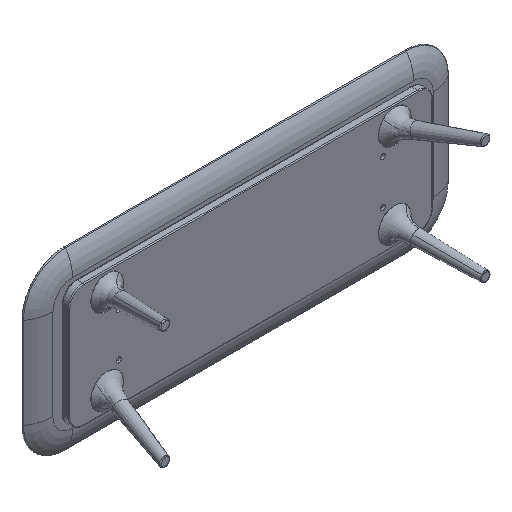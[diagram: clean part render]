
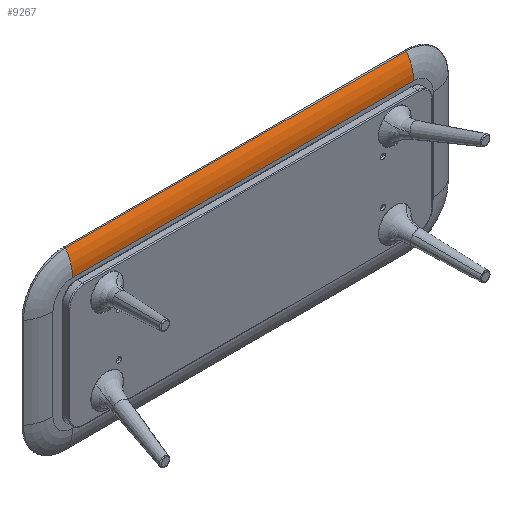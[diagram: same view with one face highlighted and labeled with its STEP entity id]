
A CAD part, isometric view. The second image highlights one B-rep face of the part: STEP entity #9267.
In plain terms, the highlighted cylindrical face has radius 129.817 mm (diameter 259.633 mm), a partial arc.
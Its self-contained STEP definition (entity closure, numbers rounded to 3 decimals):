
#82 = VERTEX_POINT ( 'NONE', #5526 ) ;
#170 = VERTEX_POINT ( 'NONE', #7174 ) ;
#997 = VERTEX_POINT ( 'NONE', #5235 ) ;
#1153 = EDGE_CURVE ( 'NONE', #997, #82, #7610, .T. ) ;
#1174 = VERTEX_POINT ( 'NONE', #7778 ) ;
#1359 = ORIENTED_EDGE ( 'NONE', *, *, #6198, .F. ) ;
#2124 = ORIENTED_EDGE ( 'NONE', *, *, #8913, .T. ) ;
#2273 = CARTESIAN_POINT ( 'NONE',  ( 42.313, 19.674, 15.327 ) ) ;
#2894 = DIRECTION ( 'NONE',  ( -1., 0., 0. ) ) ;
#3228 = LINE ( 'NONE', #2273, #8982 ) ;
#3257 = AXIS2_PLACEMENT_3D ( 'NONE', #7984, #6505, #7271 ) ;
#3946 = CARTESIAN_POINT ( 'NONE',  ( 42.313, 44.242, 91.32 ) ) ;
#3961 = FACE_OUTER_BOUND ( 'NONE', #4311, .T. ) ;
#4039 = CARTESIAN_POINT ( 'NONE',  ( 623.313, 149.491, 15.327 ) ) ;
#4311 = EDGE_LOOP ( 'NONE', ( #9489, #1359, #2124, #6379 ) ) ;
#4803 = DIRECTION ( 'NONE',  ( 0., 0., -1. ) ) ;
#5098 = VECTOR ( 'NONE', #7001, 1000. ) ;
#5235 = CARTESIAN_POINT ( 'NONE',  ( 623.313, 44.242, 91.32 ) ) ;
#5526 = CARTESIAN_POINT ( 'NONE',  ( -538.687, 44.242, 91.32 ) ) ;
#5688 = CIRCLE ( 'NONE', #8410, 129.817 ) ;
#6000 = AXIS2_PLACEMENT_3D ( 'NONE', #4039, #9385, #4803 ) ;
#6198 = EDGE_CURVE ( 'NONE', #170, #82, #5688, .T. ) ;
#6379 = ORIENTED_EDGE ( 'NONE', *, *, #9115, .F. ) ;
#6505 = DIRECTION ( 'NONE',  ( 1., 0., 0. ) ) ;
#7001 = DIRECTION ( 'NONE',  ( -1., 0., 0. ) ) ;
#7174 = CARTESIAN_POINT ( 'NONE',  ( -538.687, 19.674, 15.327 ) ) ;
#7271 = DIRECTION ( 'NONE',  ( 0., 0., -1. ) ) ;
#7291 = CYLINDRICAL_SURFACE ( 'NONE', #3257, 129.817 ) ;
#7457 = CARTESIAN_POINT ( 'NONE',  ( -538.687, 149.491, 15.327 ) ) ;
#7610 = LINE ( 'NONE', #3946, #5098 ) ;
#7778 = CARTESIAN_POINT ( 'NONE',  ( 623.313, 19.674, 15.327 ) ) ;
#7984 = CARTESIAN_POINT ( 'NONE',  ( -538.687, 149.491, 15.327 ) ) ;
#8238 = DIRECTION ( 'NONE',  ( 0., -1., 0. ) ) ;
#8266 = CIRCLE ( 'NONE', #6000, 129.817 ) ;
#8380 = DIRECTION ( 'NONE',  ( 1., 0., 0. ) ) ;
#8410 = AXIS2_PLACEMENT_3D ( 'NONE', #7457, #2894, #8238 ) ;
#8913 = EDGE_CURVE ( 'NONE', #170, #1174, #3228, .T. ) ;
#8982 = VECTOR ( 'NONE', #8380, 1000. ) ;
#9115 = EDGE_CURVE ( 'NONE', #997, #1174, #8266, .T. ) ;
#9267 = ADVANCED_FACE ( 'NONE', ( #3961 ), #7291, .T. ) ;
#9385 = DIRECTION ( 'NONE',  ( 1., 0., 0. ) ) ;
#9489 = ORIENTED_EDGE ( 'NONE', *, *, #1153, .T. ) ;
